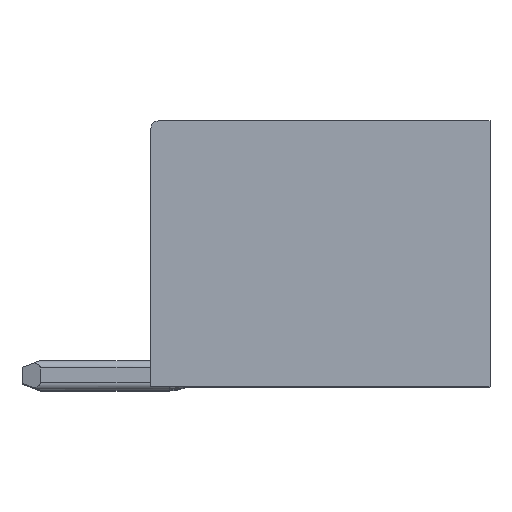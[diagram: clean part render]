
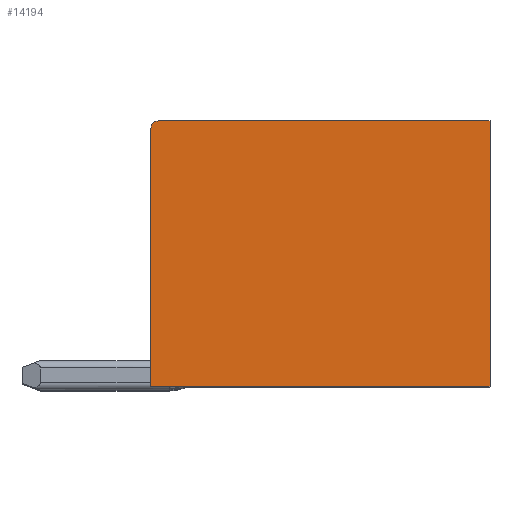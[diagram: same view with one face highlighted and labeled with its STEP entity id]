
A CAD part, top view. The second image highlights one B-rep face of the part: STEP entity #14194.
In plain terms, the highlighted planar face has unit normal (0, 0, 1).
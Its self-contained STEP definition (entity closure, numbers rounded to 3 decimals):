
#529 = DIRECTION ( 'NONE',  ( 0., -1., 0. ) ) ;
#626 = ORIENTED_EDGE ( 'NONE', *, *, #20708, .T. ) ;
#979 = DIRECTION ( 'NONE',  ( 1., 0., 0. ) ) ;
#1235 = EDGE_CURVE ( 'NONE', #1248, #4081, #7649, .T. ) ;
#1248 = VERTEX_POINT ( 'NONE', #19882 ) ;
#1744 = AXIS2_PLACEMENT_3D ( 'NONE', #13460, #15022, #5342 ) ;
#2665 = FACE_OUTER_BOUND ( 'NONE', #8138, .T. ) ;
#3779 = LINE ( 'NONE', #4575, #20608 ) ;
#3944 = CARTESIAN_POINT ( 'NONE',  ( -1.337, 2.086, 14.227 ) ) ;
#4081 = VERTEX_POINT ( 'NONE', #18858 ) ;
#4093 = EDGE_CURVE ( 'NONE', #8857, #8711, #9829, .T. ) ;
#4182 = CARTESIAN_POINT ( 'NONE',  ( 7.863, 2.086, 14.227 ) ) ;
#4200 = CARTESIAN_POINT ( 'NONE',  ( -8.271, 2.086, 14.227 ) ) ;
#4386 = PLANE ( 'NONE',  #16448 ) ;
#4575 = CARTESIAN_POINT ( 'NONE',  ( -1.337, 9.286, 14.227 ) ) ;
#4738 = CARTESIAN_POINT ( 'NONE',  ( 7.863, 9.286, 14.227 ) ) ;
#4853 = LINE ( 'NONE', #4200, #16820 ) ;
#5342 = DIRECTION ( 'NONE',  ( 0., -1., 0. ) ) ;
#5393 = CARTESIAN_POINT ( 'NONE',  ( -1.337, 9.086, 14.227 ) ) ;
#7649 = CIRCLE ( 'NONE', #1744, 0.2 ) ;
#7863 = DIRECTION ( 'NONE',  ( 1., 0., 0. ) ) ;
#8138 = EDGE_LOOP ( 'NONE', ( #11930, #18311, #11985, #19807, #626 ) ) ;
#8711 = VERTEX_POINT ( 'NONE', #20653 ) ;
#8857 = VERTEX_POINT ( 'NONE', #4738 ) ;
#9472 = LINE ( 'NONE', #5393, #13061 ) ;
#9767 = EDGE_CURVE ( 'NONE', #19208, #8711, #4853, .T. ) ;
#9829 = LINE ( 'NONE', #4182, #11602 ) ;
#11602 = VECTOR ( 'NONE', #14076, 1000. ) ;
#11930 = ORIENTED_EDGE ( 'NONE', *, *, #9767, .T. ) ;
#11985 = ORIENTED_EDGE ( 'NONE', *, *, #18482, .F. ) ;
#13061 = VECTOR ( 'NONE', #529, 1000. ) ;
#13460 = CARTESIAN_POINT ( 'NONE',  ( -1.137, 9.086, 14.227 ) ) ;
#14076 = DIRECTION ( 'NONE',  ( 0., -1., 0. ) ) ;
#14194 = ADVANCED_FACE ( 'NONE', ( #2665 ), #4386, .T. ) ;
#15022 = DIRECTION ( 'NONE',  ( 0., 0., 1. ) ) ;
#15770 = DIRECTION ( 'NONE',  ( 0., -1., 0. ) ) ;
#16448 = AXIS2_PLACEMENT_3D ( 'NONE', #17772, #19063, #15770 ) ;
#16820 = VECTOR ( 'NONE', #979, 1000. ) ;
#17772 = CARTESIAN_POINT ( 'NONE',  ( -6.2, -2.323, 14.227 ) ) ;
#18311 = ORIENTED_EDGE ( 'NONE', *, *, #4093, .F. ) ;
#18482 = EDGE_CURVE ( 'NONE', #1248, #8857, #3779, .T. ) ;
#18858 = CARTESIAN_POINT ( 'NONE',  ( -1.337, 9.086, 14.227 ) ) ;
#19063 = DIRECTION ( 'NONE',  ( 0., 0., 1. ) ) ;
#19208 = VERTEX_POINT ( 'NONE', #3944 ) ;
#19807 = ORIENTED_EDGE ( 'NONE', *, *, #1235, .T. ) ;
#19882 = CARTESIAN_POINT ( 'NONE',  ( -1.137, 9.286, 14.227 ) ) ;
#20608 = VECTOR ( 'NONE', #7863, 1000. ) ;
#20653 = CARTESIAN_POINT ( 'NONE',  ( 7.863, 2.086, 14.227 ) ) ;
#20708 = EDGE_CURVE ( 'NONE', #4081, #19208, #9472, .T. ) ;
